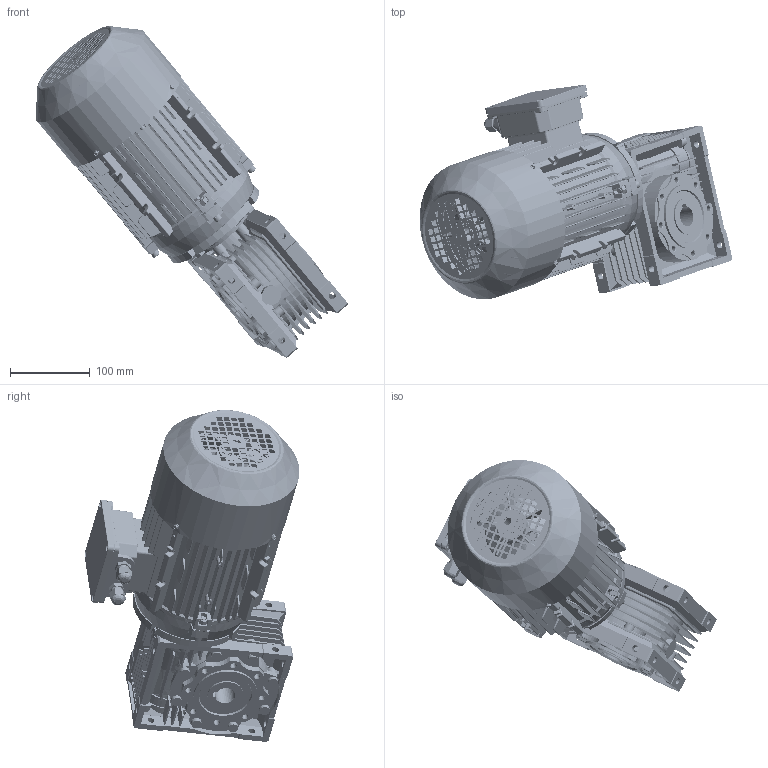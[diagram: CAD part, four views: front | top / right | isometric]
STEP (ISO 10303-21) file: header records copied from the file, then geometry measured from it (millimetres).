
FILE_DESCRIPTION (( 'STEP AP214' ), '1' );
FILE_NAME ('CMRV063_00_MX3-90S.STEP', '2018-06-28T13:47:08', ( '' ), ( '' ), 'SwSTEP 2.0', 'SolidWorks 2012', '' );
FILE_SCHEMA (( 'AUTOMOTIVE_DESIGN' ));
Length unit declared in the file: millimetre
Products named in the file (26): MX3-90S_B14; hexagon nuts grade c gb_GB_FASTENER_NUT_SNC1 M6-N; IE3 90S flange B14; hexagon socket head cap screws gb_GB_FASTENER_SCREWS_HSHCS M6X30-N; IE3 90S flange; IE3 90S  oil seal; circlips for shaft--type b gb_GB_CONNECTING_PIECE_RINGS_CSB 20; IE3 90L cable glandsM16; cross recessed pan head screws gb_GB_CROSS_SCREWS_TYPE1 M5X10-10  H type-N; cross recessed pan head screws gb_GB_CROSS_SCREWS_TYPE1 M5X20-20  H type-N; hexagon head bolts-full thread gb_GB_FASTENER_BOLT_STBAB A M4X16-N; IE3 90S connection board; hexagon flange head tapping screws gb_GB_SQUARE_AND_HEXAGON_TYPE137 ST3.5X9.5 F-N; cross recessed pan head tapping screws gb_GB_CROSS_SCREWS_TYPE128 ST4.2X9.5 H C-N; hex nuts, style 1-grades ab gb_GB_FASTENER_NUT_SNAB1 M6-N; spring lock washers--normal type gb_GB_FASTENER_WASHER_SW 6; IE3 90S terminal box cover; IE3 90S terminal box; plain parallel keys_GB_CONNECTING_PIECE_KEYS_CSK 8X40; IE3 90S fan cover; IE3 90S fan; deep groove ball bearings gb_Rolling bearings 6205 GB 276-94; IE3 90S rotor; IE3 90S casing; CMRV063_B09; CMRV063_00_MX3-90S
Assembly tree (62 placements, depth 3):
  CMRV063_00_MX3-90S
    CMRV063_B09
    MX3-90S_B14
      IE3 90S casing
      IE3 90S rotor
      deep groove ball bearings gb_Rolling bearings 6205 GB 276-94  x2
      IE3 90S fan
      IE3 90S fan cover
      plain parallel keys_GB_CONNECTING_PIECE_KEYS_CSK 8X40
      IE3 90S terminal box
      IE3 90S terminal box cover
      spring lock washers--normal type gb_GB_FASTENER_WASHER_SW 6  x8
      hex nuts, style 1-grades ab gb_GB_FASTENER_NUT_SNAB1 M6-N  x5
      cross recessed pan head tapping screws gb_GB_CROSS_SCREWS_TYPE128 ST4.2X9.5 H C-N  x4
      hexagon flange head tapping screws gb_GB_SQUARE_AND_HEXAGON_TYPE137 ST3.5X9.5 F-N  x4
      IE3 90S connection board
      hexagon head bolts-full thread gb_GB_FASTENER_BOLT_STBAB A M4X16-N  x6
      cross recessed pan head screws gb_GB_CROSS_SCREWS_TYPE1 M5X20-20  H type-N  x2
      cross recessed pan head screws gb_GB_CROSS_SCREWS_TYPE1 M5X10-10  H type-N  x4
      IE3 90L cable glandsM16  x2
      circlips for shaft--type b gb_GB_CONNECTING_PIECE_RINGS_CSB 20
      IE3 90S  oil seal
      IE3 90S flange
      hexagon socket head cap screws gb_GB_FASTENER_SCREWS_HSHCS M6X30-N  x8
      IE3 90S flange B14
      hexagon nuts grade c gb_GB_FASTENER_NUT_SNC1 M6-N  x3
Bounding box: 391.53 x 268.99 x 415.63 mm (x, y, z)
Volume: 1587955.6 mm3; surface area: 1085904.6 mm2
Topology: 60 solids, 65 shells, 6132 faces, 16551 edges, 10470 vertices
Faces by surface type: plane 2453, cylinder 1786, bspline 1305, cone 463, sphere 81, torus 44
Entity records: 225106 total; most frequent: CARTESIAN_POINT 90580, ORIENTED_EDGE 27744, DIRECTION 22249, EDGE_CURVE 14200, VERTEX_POINT 9069, AXIS2_PLACEMENT_3D 7717, LINE 6815, VECTOR 6815
